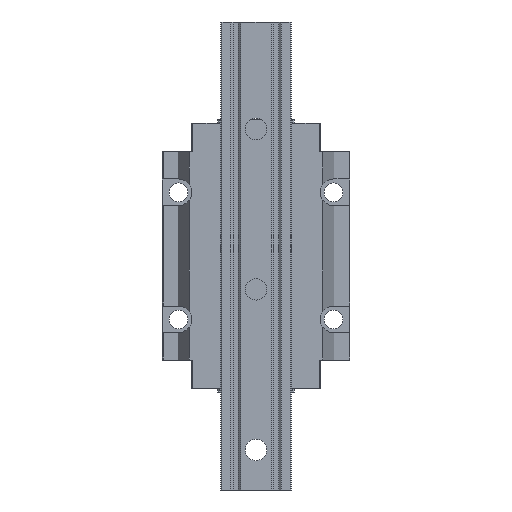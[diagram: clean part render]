
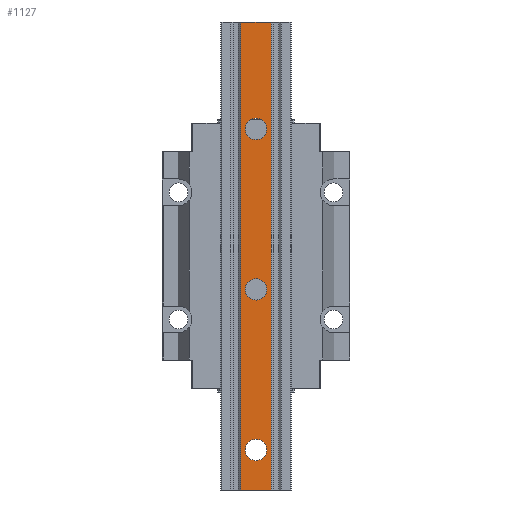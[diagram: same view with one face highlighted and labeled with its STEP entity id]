
A CAD part, front view. The second image highlights one B-rep face of the part: STEP entity #1127.
In plain terms, the highlighted planar face has unit normal (0, -1, 0).
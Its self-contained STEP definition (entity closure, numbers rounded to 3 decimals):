
#1127 = ADVANCED_FACE ( 'NONE', ( #6989, #10379, #30044, #4561 ), #32869, .T. ) ;
#1334 = DIRECTION ( 'NONE',  ( 0., 0., -1. ) ) ;
#1615 = CARTESIAN_POINT ( 'NONE',  ( 26.5, 0., -1750. ) ) ;
#1964 = VERTEX_POINT ( 'NONE', #12709 ) ;
#2321 = CARTESIAN_POINT ( 'NONE',  ( 11.357, 0., -1750. ) ) ;
#2369 = LINE ( 'NONE', #1615, #14364 ) ;
#2429 = CARTESIAN_POINT ( 'NONE',  ( 0., 0., -2100. ) ) ;
#2609 = DIRECTION ( 'NONE',  ( 1., 0., 0. ) ) ;
#2883 = CIRCLE ( 'NONE', #21566, 8. ) ;
#4561 = FACE_OUTER_BOUND ( 'NONE', #33644, .T. ) ;
#4809 = VERTEX_POINT ( 'NONE', #2321 ) ;
#6989 = FACE_BOUND ( 'NONE', #36469, .T. ) ;
#7719 = VERTEX_POINT ( 'NONE', #23872 ) ;
#7759 = CARTESIAN_POINT ( 'NONE',  ( 0., 0., -2078. ) ) ;
#7793 = ORIENTED_EDGE ( 'NONE', *, *, #28964, .T. ) ;
#7867 = ORIENTED_EDGE ( 'NONE', *, *, #31360, .T. ) ;
#9303 = ORIENTED_EDGE ( 'NONE', *, *, #13844, .T. ) ;
#9430 = DIRECTION ( 'NONE',  ( 0., 0., 1. ) ) ;
#9838 = VERTEX_POINT ( 'NONE', #22695 ) ;
#10059 = VECTOR ( 'NONE', #14504, 1000. ) ;
#10292 = CARTESIAN_POINT ( 'NONE',  ( 0., 0., -2070. ) ) ;
#10379 = FACE_BOUND ( 'NONE', #21299, .T. ) ;
#10900 = LINE ( 'NONE', #2429, #28798 ) ;
#11902 = CIRCLE ( 'NONE', #17339, 8. ) ;
#12377 = EDGE_CURVE ( 'NONE', #14525, #28177, #35357, .T. ) ;
#12639 = LINE ( 'NONE', #24517, #13722 ) ;
#12709 = CARTESIAN_POINT ( 'NONE',  ( 0., 0., -1822. ) ) ;
#13002 = VERTEX_POINT ( 'NONE', #15603 ) ;
#13722 = VECTOR ( 'NONE', #1334, 1000. ) ;
#13766 = CARTESIAN_POINT ( 'NONE',  ( 0., 0., -1830. ) ) ;
#13797 = ORIENTED_EDGE ( 'NONE', *, *, #22824, .T. ) ;
#13844 = EDGE_CURVE ( 'NONE', #9838, #7719, #12639, .T. ) ;
#14096 = EDGE_CURVE ( 'NONE', #4809, #9838, #2369, .T. ) ;
#14364 = VECTOR ( 'NONE', #24616, 1000. ) ;
#14504 = DIRECTION ( 'NONE',  ( 0., 0., 1. ) ) ;
#14525 = VERTEX_POINT ( 'NONE', #26448 ) ;
#15417 = EDGE_LOOP ( 'NONE', ( #34085, #7867 ) ) ;
#15603 = CARTESIAN_POINT ( 'NONE',  ( 11.357, 0., -2100. ) ) ;
#16090 = EDGE_CURVE ( 'NONE', #34046, #1964, #23820, .T. ) ;
#16395 = DIRECTION ( 'NONE',  ( 0., 0., 1. ) ) ;
#16498 = DIRECTION ( 'NONE',  ( 0., 1., 0. ) ) ;
#17148 = DIRECTION ( 'NONE',  ( 0., 1., 0. ) ) ;
#17337 = LINE ( 'NONE', #28894, #10059 ) ;
#17339 = AXIS2_PLACEMENT_3D ( 'NONE', #10292, #16498, #36541 ) ;
#17397 = ORIENTED_EDGE ( 'NONE', *, *, #18582, .T. ) ;
#18582 = EDGE_CURVE ( 'NONE', #13002, #4809, #17337, .T. ) ;
#18787 = EDGE_CURVE ( 'NONE', #22523, #36801, #11902, .T. ) ;
#18826 = DIRECTION ( 'NONE',  ( 0., 1., 0. ) ) ;
#19065 = AXIS2_PLACEMENT_3D ( 'NONE', #25200, #33877, #27849 ) ;
#19530 = ORIENTED_EDGE ( 'NONE', *, *, #25340, .T. ) ;
#20145 = AXIS2_PLACEMENT_3D ( 'NONE', #13766, #17148, #30993 ) ;
#20899 = CARTESIAN_POINT ( 'NONE',  ( 0., 0., -1838. ) ) ;
#21088 = AXIS2_PLACEMENT_3D ( 'NONE', #23019, #22274, #33794 ) ;
#21299 = EDGE_LOOP ( 'NONE', ( #25929, #7793 ) ) ;
#21566 = AXIS2_PLACEMENT_3D ( 'NONE', #21696, #33397, #16395 ) ;
#21696 = CARTESIAN_POINT ( 'NONE',  ( 0., 0., -1950. ) ) ;
#22274 = DIRECTION ( 'NONE',  ( 0., -1., 0. ) ) ;
#22523 = VERTEX_POINT ( 'NONE', #37340 ) ;
#22695 = CARTESIAN_POINT ( 'NONE',  ( -11.357, 0., -1750. ) ) ;
#22824 = EDGE_CURVE ( 'NONE', #1964, #34046, #31318, .T. ) ;
#23019 = CARTESIAN_POINT ( 'NONE',  ( -26.5, 0., -2168.884 ) ) ;
#23443 = AXIS2_PLACEMENT_3D ( 'NONE', #33342, #18826, #27683 ) ;
#23820 = CIRCLE ( 'NONE', #20145, 8. ) ;
#23872 = CARTESIAN_POINT ( 'NONE',  ( -11.357, 0., -2100. ) ) ;
#24517 = CARTESIAN_POINT ( 'NONE',  ( -11.357, 0., -2168.884 ) ) ;
#24616 = DIRECTION ( 'NONE',  ( -1., 0., 0. ) ) ;
#25006 = CARTESIAN_POINT ( 'NONE',  ( 0., 0., -1958. ) ) ;
#25200 = CARTESIAN_POINT ( 'NONE',  ( 0., 0., -1950. ) ) ;
#25340 = EDGE_CURVE ( 'NONE', #7719, #13002, #10900, .T. ) ;
#25929 = ORIENTED_EDGE ( 'NONE', *, *, #12377, .T. ) ;
#26448 = CARTESIAN_POINT ( 'NONE',  ( 0., 0., -1942. ) ) ;
#26588 = CIRCLE ( 'NONE', #34972, 8. ) ;
#27683 = DIRECTION ( 'NONE',  ( 0., 0., 1. ) ) ;
#27849 = DIRECTION ( 'NONE',  ( 0., 0., 1. ) ) ;
#28177 = VERTEX_POINT ( 'NONE', #25006 ) ;
#28493 = ORIENTED_EDGE ( 'NONE', *, *, #14096, .T. ) ;
#28798 = VECTOR ( 'NONE', #2609, 1000. ) ;
#28894 = CARTESIAN_POINT ( 'NONE',  ( 11.357, 0., -2100. ) ) ;
#28964 = EDGE_CURVE ( 'NONE', #28177, #14525, #2883, .T. ) ;
#30044 = FACE_BOUND ( 'NONE', #15417, .T. ) ;
#30993 = DIRECTION ( 'NONE',  ( 0., 0., 1. ) ) ;
#31318 = CIRCLE ( 'NONE', #23443, 8. ) ;
#31360 = EDGE_CURVE ( 'NONE', #36801, #22523, #26588, .T. ) ;
#31871 = ORIENTED_EDGE ( 'NONE', *, *, #16090, .T. ) ;
#32869 = PLANE ( 'NONE',  #21088 ) ;
#33342 = CARTESIAN_POINT ( 'NONE',  ( 0., 0., -1830. ) ) ;
#33397 = DIRECTION ( 'NONE',  ( 0., 1., 0. ) ) ;
#33644 = EDGE_LOOP ( 'NONE', ( #9303, #19530, #17397, #28493 ) ) ;
#33794 = DIRECTION ( 'NONE',  ( 0., 0., -1. ) ) ;
#33877 = DIRECTION ( 'NONE',  ( 0., 1., 0. ) ) ;
#34046 = VERTEX_POINT ( 'NONE', #20899 ) ;
#34085 = ORIENTED_EDGE ( 'NONE', *, *, #18787, .T. ) ;
#34972 = AXIS2_PLACEMENT_3D ( 'NONE', #35307, #35128, #9430 ) ;
#35128 = DIRECTION ( 'NONE',  ( 0., 1., 0. ) ) ;
#35307 = CARTESIAN_POINT ( 'NONE',  ( 0., 0., -2070. ) ) ;
#35357 = CIRCLE ( 'NONE', #19065, 8. ) ;
#36469 = EDGE_LOOP ( 'NONE', ( #13797, #31871 ) ) ;
#36541 = DIRECTION ( 'NONE',  ( 0., 0., 1. ) ) ;
#36801 = VERTEX_POINT ( 'NONE', #7759 ) ;
#37340 = CARTESIAN_POINT ( 'NONE',  ( 0., 0., -2062. ) ) ;
